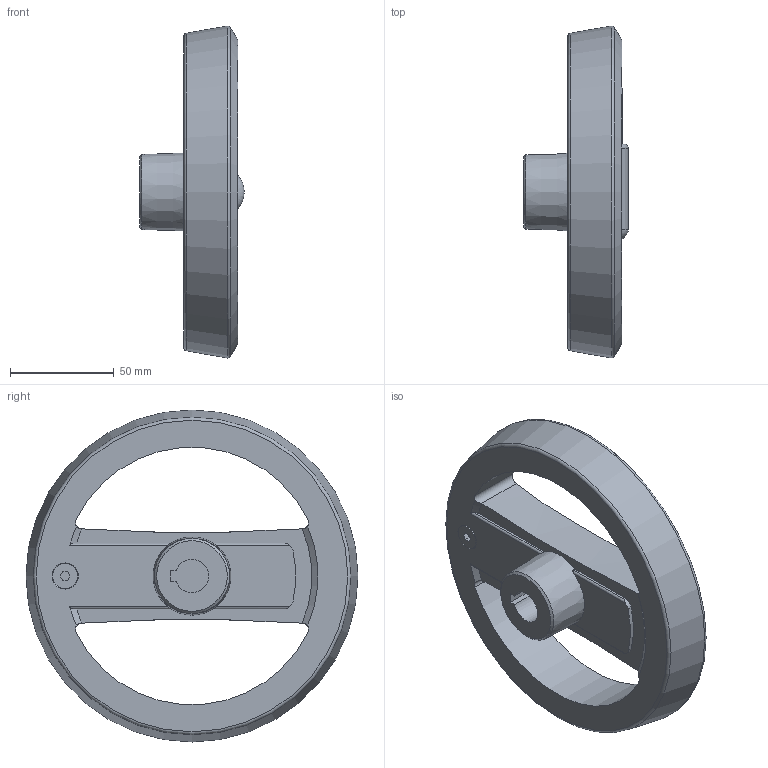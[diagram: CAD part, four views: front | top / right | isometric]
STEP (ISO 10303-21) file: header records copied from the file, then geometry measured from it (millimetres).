
FILE_DESCRIPTION( ( 'STEP AP203' ), '1' );
FILE_NAME( 'C:/Temp/Ganter_Step_05_03_2020/data/1_3/gn_924_3/gn_924_3_k/Handwheel with retractable handle GN 924.3-160-K16-R-SR (unactivated).stp', '2020-03-05T10:41:17', ( 'License CC BY-ND 4.0' ), ( 'CADENAS' ), ' ', 'PARTsolutions', ' ' );
FILE_SCHEMA( ( 'CONFIG_CONTROL_DESIGN' ) );
Length unit declared in the file: millimetre
Products named in the file (3): Handwheel with retractable handle GN 924.3-160-K16-R-SR (unactivated); _Umleggriff-Handrad GN 924.3-160-K16-R-SR-1; _Umleggriff-Handrad GN 924.3-160-K16-R-SR-2
Assembly tree (2 placements, depth 2):
  Handwheel with retractable handle GN 924.3-160-K16-R-SR (unactivated)
    _Umleggriff-Handrad GN 924.3-160-K16-R-SR-1
    _Umleggriff-Handrad GN 924.3-160-K16-R-SR-2
Bounding box: 50.2 x 159.68 x 159.68 mm (x, y, z)
Volume: 292405.8 mm3; surface area: 65577.7 mm2
Topology: 2 solids, 2 shells, 111 faces, 289 edges, 186 vertices
Faces by surface type: plane 49, cylinder 41, cone 12, torus 7, sphere 2
Full cylindrical faces by diameter (mm): 4 x4, 5 x1, 10 x1, 12 x1, 18.5 x1, 24 x1, 25 x1, 26.6 x1
Entity records: 3664 total; most frequent: CARTESIAN_POINT 970, DIRECTION 538, ORIENTED_EDGE 508, EDGE_CURVE 254, AXIS2_PLACEMENT_3D 215, VERTEX_POINT 181, EDGE_LOOP 150, FACE_OUTER_BOUND 129
